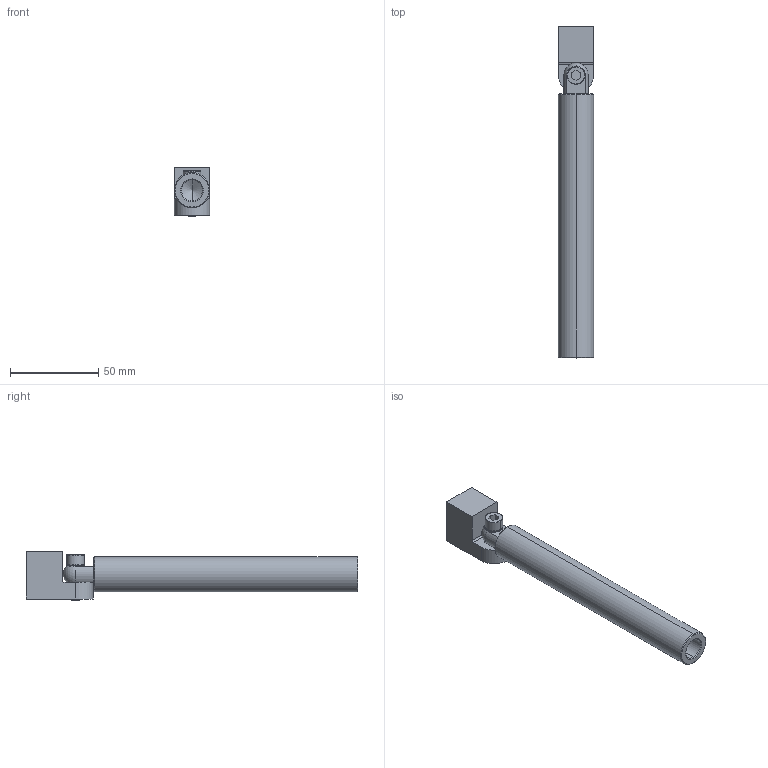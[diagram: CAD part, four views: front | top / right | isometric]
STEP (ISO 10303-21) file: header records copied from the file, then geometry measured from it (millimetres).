
FILE_DESCRIPTION (( 'STEP AP214' ), '1' );
FILE_NAME ('SEAV-G1420L150.STEP', '2019-11-11T05:32:26', ( '微软用户' ), ( '微软中国' ), 'SwSTEP 2.0', 'SolidWorks 2016', '' );
FILE_SCHEMA (( 'AUTOMOTIVE_DESIGN' ));
Length unit declared in the file: millimetre
Products named in the file (1): SEAV-G1420L150
Bounding box: 20 x 188 x 27.9 mm (x, y, z)
Surface area: 21985 mm2 (no closed solid volume)
Topology: 0 solids, 5 shells, 215 faces, 606 edges, 396 vertices
Faces by surface type: plane 165, cylinder 28, cone 18, bspline 2, sphere 2
Entity records: 9646 total; most frequent: CARTESIAN_POINT 1542, DIRECTION 1226, ORIENTED_EDGE 1188, EDGE_CURVE 596, AXIS2_PLACEMENT_3D 428, VERTEX_POINT 392, LINE 370, VECTOR 370
